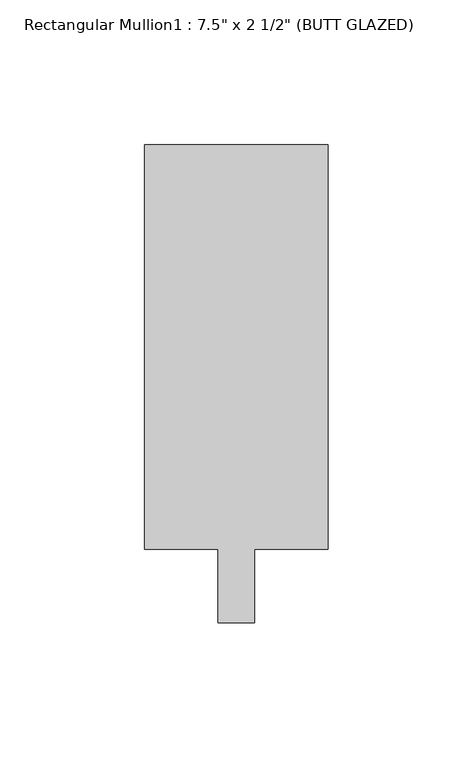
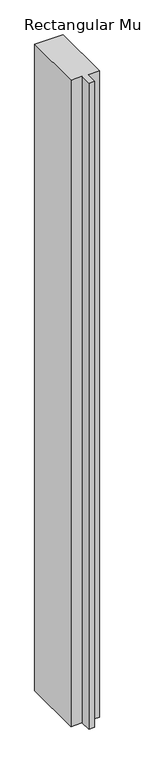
"""IFC4 building model written with IfcOpenShell, lengths in millimetres: member geometry."""

from ifc_helpers import new_model, si_unit, frame, origin, place, context, project, spatial, polyline, outline, extrude, source, transform, mapped, element, save


def member_73708f09(model_context):
    return source(origin(), model_context, "Body", "SweptSolid", [
        extrude(outline(polyline([(31.75, 165.1), (31.75, 25.4), (6.35, 25.4), (6.35, 0.0), (-6.35, 0.0), (-6.35, 25.4), (-31.75, 25.4), (-31.75, 165.1), (31.75, 165.1)])), frame((0.0, 0.0, -1524.0), z_axis=(0.0, 0.0, 1.0), x_axis=(1.0, 0.0, 0.0)), (0.0, 0.0, 1.0), 1524.0),
    ])


if __name__ == "__main__":
    model = new_model("IFC4")
    model_context = context("Model", 3, world=origin())
    ifc_project = project(units=[si_unit("LENGTHUNIT", "METRE", prefix="MILLI")], contexts=[model_context])
    site = spatial("IfcSite", under=ifc_project)
    building = spatial("IfcBuilding", under=site)
    placement = place(None, origin())
    member_shape = member_73708f09(model_context)
    element("IfcMember", 1, ObjectType="Rectangular Mullion1 : 7.5\" x 2 1/2\" (BUTT GLAZED)", at=placement, inside=building, context=model_context, shape_type="MappedRepresentation", body=[
        mapped(member_shape, transform((0.0, 0.0, 0.0), x_axis=(1.0, 0.0, 0.0), y_axis=(0.0, 1.0, 0.0), z_axis=(0.0, 0.0, 1.0))),
    ])
    save(model, "model.ifc")
